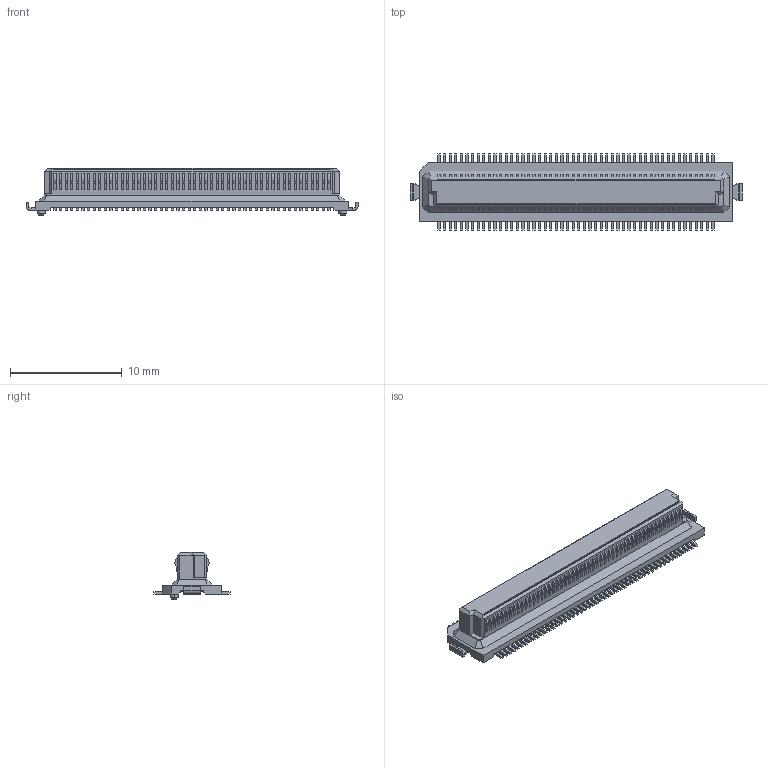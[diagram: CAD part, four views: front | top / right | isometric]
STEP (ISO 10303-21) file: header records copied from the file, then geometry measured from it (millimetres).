
FILE_DESCRIPTION(('Creo Elements/Direct Modeling STEP Export'),'2;1');
FILE_NAME('P3E372_DY11-100S-1-T-H.stp','2022-03-01T11:00:00',(''),(''),'Creo Elements/Direct Modeling STEP processor for AP214 (Solid Model)','Creo Elements/Direct Modeling 20.4A 18-Oct-2021 (C) Parametric Technology GmbH','');
FILE_SCHEMA(('AUTOMOTIVE_DESIGN { 1 0 10303 214 1 1 1 1 }'));
Length unit declared in the file: millimetre
Products named in the file (2): P3E372_DY11-100S-1-T-H
Assembly tree (1 placements, depth 2):
  P3E372_DY11-100S-1-T-H
    P3E372_DY11-100S-1-T-H
Bounding box: 29.7 x 6.8 x 4.23 mm (x, y, z)
Volume: 299.4 mm3; surface area: 642.1 mm2
Topology: 1 solids, 1 shells, 1534 faces, 3951 edges, 2622 vertices
Faces by surface type: plane 1214, cylinder 316, cone 4
Entity records: 46198 total; most frequent: CARTESIAN_POINT 8094, ORIENTED_EDGE 7902, DIRECTION 7634, EDGE_CURVE 3951, VECTOR 3310, LINE 3310, VERTEX_POINT 2622, AXIS2_PLACEMENT_3D 2162
